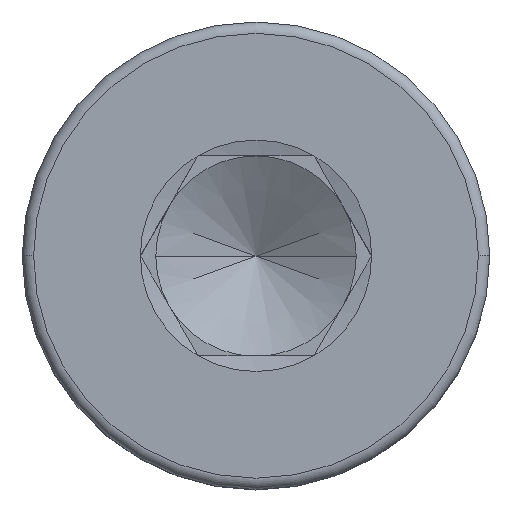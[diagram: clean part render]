
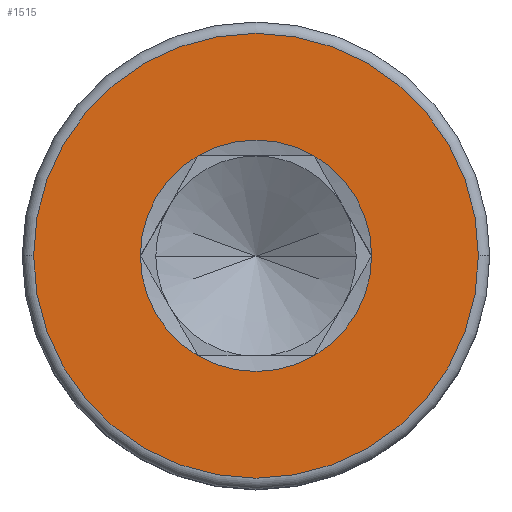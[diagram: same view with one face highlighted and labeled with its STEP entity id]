
A CAD part, top view. The second image highlights one B-rep face of the part: STEP entity #1515.
In plain terms, the highlighted planar face has unit normal (0, 0, 1).
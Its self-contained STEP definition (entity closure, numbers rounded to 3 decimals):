
#1 = EDGE_CURVE ( 'NONE', #842, #946, #336, .T. ) ;
#10 = CARTESIAN_POINT ( 'NONE',  ( 0., 0., 4. ) ) ;
#17 = AXIS2_PLACEMENT_3D ( 'NONE', #10, #1275, #1667 ) ;
#44 = DIRECTION ( 'NONE',  ( 0., 0., 1. ) ) ;
#73 = EDGE_LOOP ( 'NONE', ( #1018, #1158 ) ) ;
#100 = EDGE_CURVE ( 'NONE', #790, #934, #1469, .T. ) ;
#107 = AXIS2_PLACEMENT_3D ( 'NONE', #903, #239, #1069 ) ;
#129 = DIRECTION ( 'NONE',  ( 1., 0., 0. ) ) ;
#186 = CARTESIAN_POINT ( 'NONE',  ( 0.866, 1.5, 4. ) ) ;
#219 = AXIS2_PLACEMENT_3D ( 'NONE', #1123, #44, #595 ) ;
#239 = DIRECTION ( 'NONE',  ( 0., 0., 1. ) ) ;
#336 = CIRCLE ( 'NONE', #219, 3.33 ) ;
#350 = EDGE_CURVE ( 'NONE', #588, #1447, #528, .T. ) ;
#364 = DIRECTION ( 'NONE',  ( 0., 0., 1. ) ) ;
#374 = CIRCLE ( 'NONE', #1383, 1.732 ) ;
#443 = DIRECTION ( 'NONE',  ( 1., 0., 0. ) ) ;
#445 = ORIENTED_EDGE ( 'NONE', *, *, #100, .F. ) ;
#528 = CIRCLE ( 'NONE', #1519, 1.732 ) ;
#540 = DIRECTION ( 'NONE',  ( 0., 0., 1. ) ) ;
#588 = VERTEX_POINT ( 'NONE', #186 ) ;
#595 = DIRECTION ( 'NONE',  ( 1., 0., 0. ) ) ;
#601 = AXIS2_PLACEMENT_3D ( 'NONE', #1092, #540, #697 ) ;
#633 = CARTESIAN_POINT ( 'NONE',  ( 0.866, -1.5, 4. ) ) ;
#640 = FACE_OUTER_BOUND ( 'NONE', #73, .T. ) ;
#646 = CARTESIAN_POINT ( 'NONE',  ( 0., 0., 4. ) ) ;
#697 = DIRECTION ( 'NONE',  ( 1., 0., 0. ) ) ;
#781 = DIRECTION ( 'NONE',  ( 1., 0., 0. ) ) ;
#784 = DIRECTION ( 'NONE',  ( 0., 0., 1. ) ) ;
#790 = VERTEX_POINT ( 'NONE', #633 ) ;
#824 = AXIS2_PLACEMENT_3D ( 'NONE', #1185, #919, #1479 ) ;
#842 = VERTEX_POINT ( 'NONE', #1463 ) ;
#886 = CIRCLE ( 'NONE', #107, 1.732 ) ;
#903 = CARTESIAN_POINT ( 'NONE',  ( 0., 0., 4. ) ) ;
#919 = DIRECTION ( 'NONE',  ( 0., 0., 1. ) ) ;
#921 = EDGE_CURVE ( 'NONE', #1399, #1109, #1446, .T. ) ;
#933 = DIRECTION ( 'NONE',  ( 0., 0., 1. ) ) ;
#934 = VERTEX_POINT ( 'NONE', #1607 ) ;
#946 = VERTEX_POINT ( 'NONE', #1345 ) ;
#949 = EDGE_CURVE ( 'NONE', #934, #588, #886, .T. ) ;
#971 = EDGE_CURVE ( 'NONE', #946, #842, #1585, .T. ) ;
#1018 = ORIENTED_EDGE ( 'NONE', *, *, #971, .T. ) ;
#1069 = DIRECTION ( 'NONE',  ( 1., 0., 0. ) ) ;
#1082 = AXIS2_PLACEMENT_3D ( 'NONE', #1319, #933, #781 ) ;
#1092 = CARTESIAN_POINT ( 'NONE',  ( 0., 0., 4. ) ) ;
#1109 = VERTEX_POINT ( 'NONE', #1232 ) ;
#1118 = CIRCLE ( 'NONE', #601, 1.732 ) ;
#1123 = CARTESIAN_POINT ( 'NONE',  ( 0., 0., 4. ) ) ;
#1158 = ORIENTED_EDGE ( 'NONE', *, *, #1, .T. ) ;
#1161 = ORIENTED_EDGE ( 'NONE', *, *, #921, .F. ) ;
#1185 = CARTESIAN_POINT ( 'NONE',  ( 0., 0., 4. ) ) ;
#1232 = CARTESIAN_POINT ( 'NONE',  ( -0.866, -1.5, 4. ) ) ;
#1236 = EDGE_LOOP ( 'NONE', ( #1363, #445, #1418, #1161, #1298, #1395 ) ) ;
#1267 = AXIS2_PLACEMENT_3D ( 'NONE', #646, #784, #129 ) ;
#1275 = DIRECTION ( 'NONE',  ( 0., 0., 1. ) ) ;
#1298 = ORIENTED_EDGE ( 'NONE', *, *, #1647, .F. ) ;
#1319 = CARTESIAN_POINT ( 'NONE',  ( 0., 0., 4. ) ) ;
#1345 = CARTESIAN_POINT ( 'NONE',  ( 3.33, 0., 4. ) ) ;
#1363 = ORIENTED_EDGE ( 'NONE', *, *, #949, .F. ) ;
#1383 = AXIS2_PLACEMENT_3D ( 'NONE', #1678, #1558, #443 ) ;
#1395 = ORIENTED_EDGE ( 'NONE', *, *, #350, .F. ) ;
#1399 = VERTEX_POINT ( 'NONE', #1596 ) ;
#1418 = ORIENTED_EDGE ( 'NONE', *, *, #1626, .F. ) ;
#1446 = CIRCLE ( 'NONE', #1082, 1.732 ) ;
#1447 = VERTEX_POINT ( 'NONE', #1705 ) ;
#1463 = CARTESIAN_POINT ( 'NONE',  ( -3.33, 0., 4. ) ) ;
#1469 = CIRCLE ( 'NONE', #17, 1.732 ) ;
#1479 = DIRECTION ( 'NONE',  ( 1., 0., 0. ) ) ;
#1495 = DIRECTION ( 'NONE',  ( 1., 0., 0. ) ) ;
#1515 = ADVANCED_FACE ( 'NONE', ( #640, #1649 ), #1527, .T. ) ;
#1519 = AXIS2_PLACEMENT_3D ( 'NONE', #1758, #364, #1495 ) ;
#1527 = PLANE ( 'NONE',  #1267 ) ;
#1558 = DIRECTION ( 'NONE',  ( 0., 0., 1. ) ) ;
#1585 = CIRCLE ( 'NONE', #824, 3.33 ) ;
#1596 = CARTESIAN_POINT ( 'NONE',  ( -1.732, 0., 4. ) ) ;
#1607 = CARTESIAN_POINT ( 'NONE',  ( 1.732, 0., 4. ) ) ;
#1626 = EDGE_CURVE ( 'NONE', #1109, #790, #1118, .T. ) ;
#1647 = EDGE_CURVE ( 'NONE', #1447, #1399, #374, .T. ) ;
#1649 = FACE_BOUND ( 'NONE', #1236, .T. ) ;
#1667 = DIRECTION ( 'NONE',  ( 1., 0., 0. ) ) ;
#1678 = CARTESIAN_POINT ( 'NONE',  ( 0., 0., 4. ) ) ;
#1705 = CARTESIAN_POINT ( 'NONE',  ( -0.866, 1.5, 4. ) ) ;
#1758 = CARTESIAN_POINT ( 'NONE',  ( 0., 0., 4. ) ) ;
